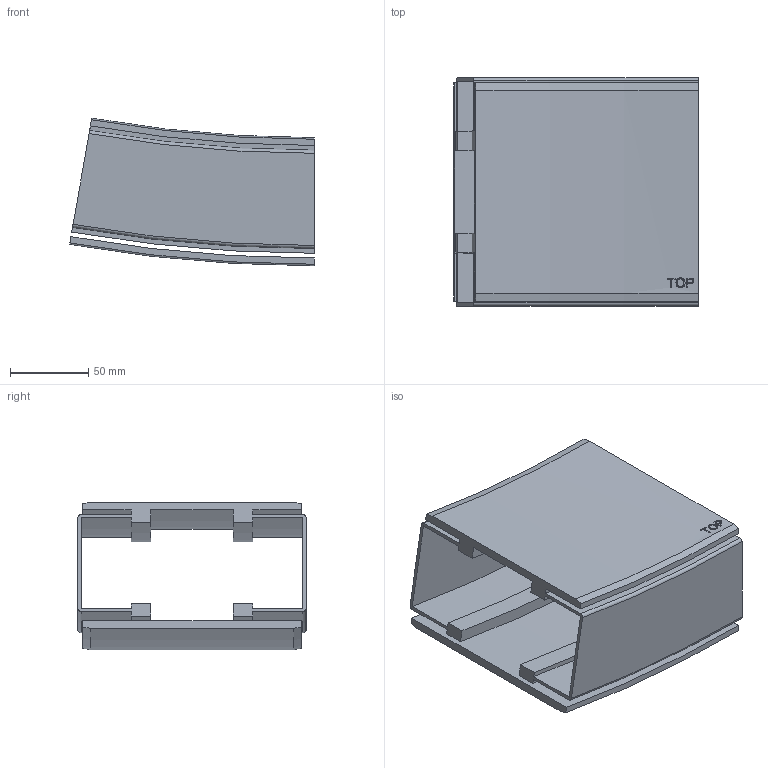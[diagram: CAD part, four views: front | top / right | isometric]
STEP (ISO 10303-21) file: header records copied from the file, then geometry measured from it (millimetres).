
FILE_DESCRIPTION(/* description */ ('VERTIKALKURVA S540 R860'),/* implementation_level */ '2;1');
FILE_NAME(/* name */ '540-5695+140-2000-UPP-01.stp',/* time_stamp */ '2022-09-21T11:07:42+02:00',/* author */ ('Mathias.Dore'),/* organization */ ('CARRYLINE'),/* preprocessor_version */ 'ST-DEVELOPER v19.2',/* originating_system */ 'Autodesk Inventor 2023',/* authorisation */ '');
FILE_SCHEMA (('AUTOMOTIVE_DESIGN { 1 0 10303 214 3 1 1 }'));
Length unit declared in the file: millimetre
Products named in the file (1): 540-5695+140-2000-UPP-01
Bounding box: 156.72 x 146 x 94.47 mm (x, y, z)
Volume: 344771.2 mm3; surface area: 183210.7 mm2
Topology: 2 solids, 2 shells, 87 faces, 234 edges, 156 vertices
Faces by surface type: plane 40, cylinder 25, bspline 14, cone 4, torus 4
Entity records: 7369 total; most frequent: CARTESIAN_POINT 5170, ORIENTED_EDGE 468, DIRECTION 408, EDGE_CURVE 234, VERTEX_POINT 156, AXIS2_PLACEMENT_3D 141, LINE 126, VECTOR 126
